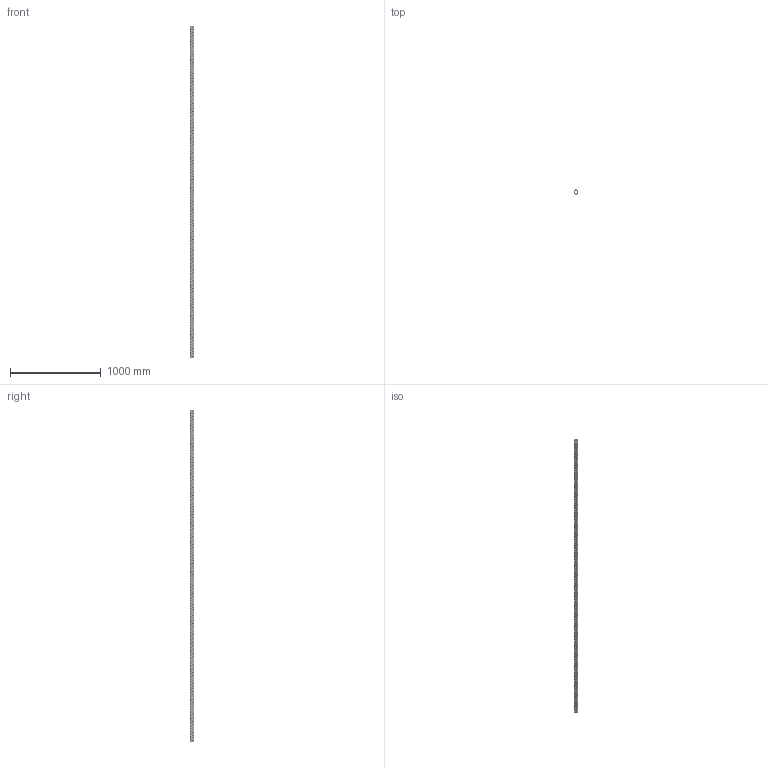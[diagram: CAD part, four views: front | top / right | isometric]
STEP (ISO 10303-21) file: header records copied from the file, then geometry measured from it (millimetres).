
FILE_DESCRIPTION(('CATIA V5 STEP Exchange'),'2;1');
FILE_NAME('U:\Room\唐宝山\EGT002\46-01-010351-01-EGT002-3658.stp','2021-08-25T00:46:06+00:00',('none'),('none'),'CATIA Version 5 Release 21 GA (IN-10)','CATIA V5 STEP AP203','none');
FILE_SCHEMA(('CONFIG_CONTROL_DESIGN'));
Products named in the file (1): 46-01-010351-01-EGT002-3658
Bounding box: 50 x 50 x 3658 mm (x, y, z)
Volume: 2606519.5 mm3; surface area: 1255140.3 mm2
Topology: 1 solids, 1 shells, 4964 faces, 13666 edges, 8460 vertices
Faces by surface type: cone 2928, cylinder 2010, plane 26
Entity records: 201430 total; most frequent: CARTESIAN_POINT 80955, ORIENTED_EDGE 27332, DIRECTION 19495, EDGE_CURVE 13666, AXIS2_PLACEMENT_3D 9278, VERTEX_POINT 8460, EDGE_LOOP 6674, VECTOR 5254
